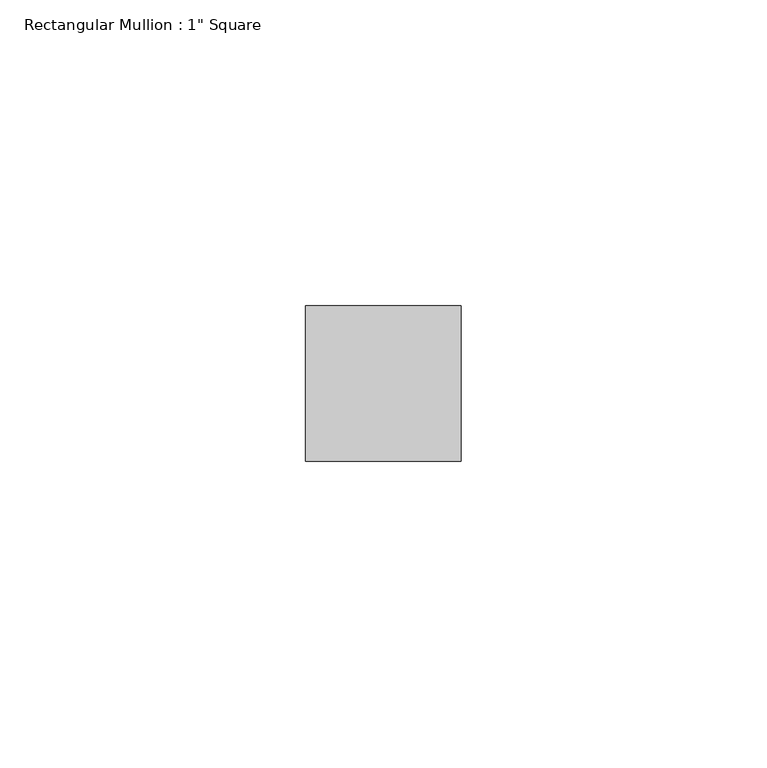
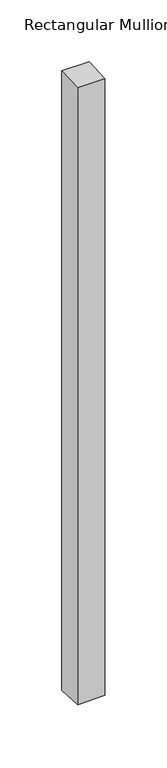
"""IFC4 building model written with IfcOpenShell, lengths in millimetres: member geometry."""

from ifc_helpers import new_model, si_unit, origin, place, context, project, spatial, faceted_brep, source, transform, mapped, element, save


def member_0934fb4d(model_context):
    return source(origin(), model_context, "Body", "Brep", [
        faceted_brep([(-25.4, 12.7, 0.5854443), (0.0, 12.7, 0.5278608), (0.0, 12.7, -610.357615), (-25.4, 12.7, -610.440262), (-25.4, -12.7, -0.4702773), (-25.4, -12.7, -608.925032), (0.0, -12.7, -0.5278608), (0.0, -12.7, -608.842385)], [[[0, 1, 2, 3]], [[4, 0, 3, 5]], [[6, 4, 5, 7]], [[1, 6, 7, 2]], [[1, 0, 4, 6]], [[2, 7, 5, 3]]]),
    ])


if __name__ == "__main__":
    model = new_model("IFC4")
    model_context = context("Model", 3, world=origin())
    ifc_project = project(units=[si_unit("LENGTHUNIT", "METRE", prefix="MILLI")], contexts=[model_context])
    site = spatial("IfcSite", under=ifc_project)
    building = spatial("IfcBuilding", under=site)
    placement = place(None, origin())
    member_shape = member_0934fb4d(model_context)
    element("IfcMember", 1, ObjectType="Rectangular Mullion : 1\" Square", at=placement, inside=building, context=model_context, shape_type="MappedRepresentation", body=[
        mapped(member_shape, transform((0.0, 0.0, 0.0), x_axis=(1.0, 0.0, 0.0), y_axis=(0.0, 1.0, 0.0), z_axis=(0.0, 0.0, 1.0))),
    ])
    save(model, "model.ifc")
